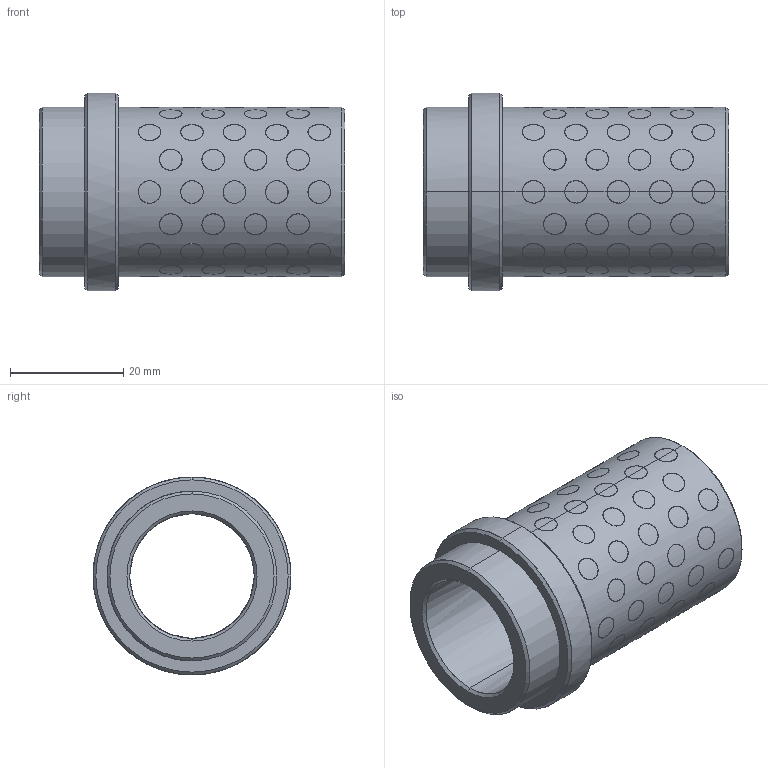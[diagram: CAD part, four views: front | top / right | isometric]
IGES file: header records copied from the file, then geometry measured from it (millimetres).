
Start section: START RECORD GO HERE.
Global section: file name: G31222046.igs; native system: DASSAULT SYSTEMES CATIA V5 R20 - www.3ds.com; preprocessor: CATIA Version 5 Release 20 ; author: r.borello; organization: CFTORINO; date: 20190624.121509; units: millimetre
Bounding box: 54 x 35 x 35 mm (x, y, z)
Surface area: 17110.5 mm2 (no closed solid volume)
Topology: 0 solids, 0 shells, 476 faces, 2064 edges, 2064 vertices
Faces by surface type: revolution 472, plane 4
